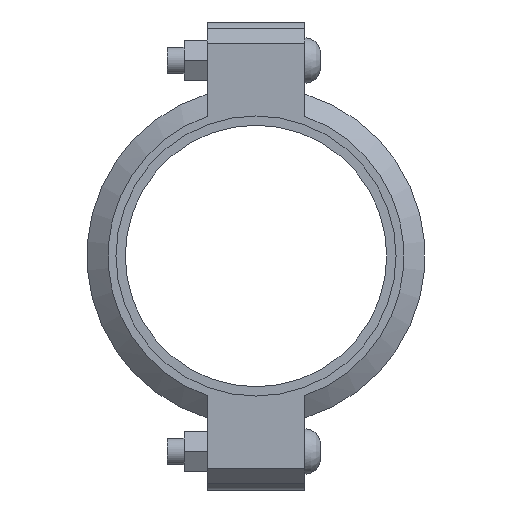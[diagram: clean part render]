
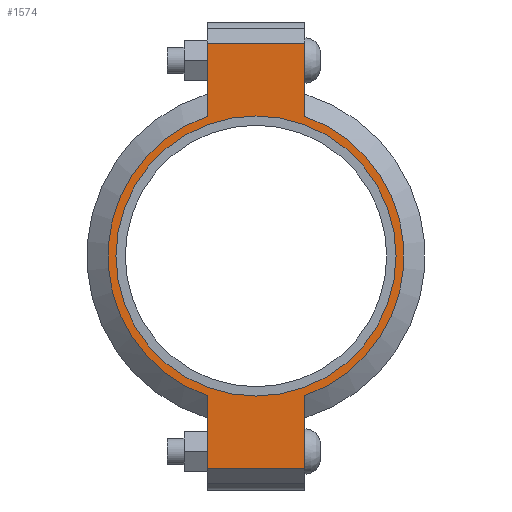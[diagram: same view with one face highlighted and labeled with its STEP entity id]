
A CAD part, left-side view. The second image highlights one B-rep face of the part: STEP entity #1574.
In plain terms, the highlighted planar face has unit normal (-1, 0, 0) as drawn and (0, 0, 1) by its records, which use the part's own axes.
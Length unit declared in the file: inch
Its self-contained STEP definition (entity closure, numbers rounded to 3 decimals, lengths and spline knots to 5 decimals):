
#198=LINE('',#2756,#291);
#206=LINE('',#2792,#299);
#213=LINE('',#2813,#306);
#222=LINE('',#2845,#315);
#223=LINE('',#2849,#316);
#224=LINE('',#2851,#317);
#291=VECTOR('',#2244,0.3937);
#299=VECTOR('',#2260,0.3937);
#306=VECTOR('',#2279,0.3937);
#315=VECTOR('',#2304,0.3937);
#316=VECTOR('',#2309,0.3937);
#317=VECTOR('',#2310,0.3937);
#373=FACE_BOUND('',#551,.T.);
#445=FACE_OUTER_BOUND('',#550,.T.);
#550=EDGE_LOOP('',(#1315,#1316,#1317,#1318,#1319,#1320,#1321,#1322));
#551=EDGE_LOOP('',(#1323));
#623=CIRCLE('',#1802,3.3125);
#649=CIRCLE('',#1861,3.5);
#650=CIRCLE('',#1862,3.5);
#715=VERTEX_POINT('',#2572);
#758=VERTEX_POINT('',#2753);
#759=VERTEX_POINT('',#2755);
#770=VERTEX_POINT('',#2787);
#771=VERTEX_POINT('',#2791);
#778=VERTEX_POINT('',#2810);
#779=VERTEX_POINT('',#2812);
#789=VERTEX_POINT('',#2848);
#790=VERTEX_POINT('',#2850);
#871=EDGE_CURVE('',#715,#715,#623,.T.);
#932=EDGE_CURVE('',#759,#758,#198,.T.);
#946=EDGE_CURVE('',#771,#770,#206,.T.);
#956=EDGE_CURVE('',#779,#778,#213,.T.);
#971=EDGE_CURVE('',#771,#758,#222,.T.);
#972=EDGE_CURVE('',#770,#779,#649,.T.);
#973=EDGE_CURVE('',#789,#778,#223,.T.);
#974=EDGE_CURVE('',#789,#790,#224,.T.);
#975=EDGE_CURVE('',#790,#759,#650,.T.);
#1315=ORIENTED_EDGE('',*,*,#971,.F.);
#1316=ORIENTED_EDGE('',*,*,#946,.T.);
#1317=ORIENTED_EDGE('',*,*,#972,.T.);
#1318=ORIENTED_EDGE('',*,*,#956,.T.);
#1319=ORIENTED_EDGE('',*,*,#973,.F.);
#1320=ORIENTED_EDGE('',*,*,#974,.T.);
#1321=ORIENTED_EDGE('',*,*,#975,.T.);
#1322=ORIENTED_EDGE('',*,*,#932,.T.);
#1323=ORIENTED_EDGE('',*,*,#871,.T.);
#1416=PLANE('',#1860);
#1574=ADVANCED_FACE('',(#445,#373),#1416,.T.);
#1802=AXIS2_PLACEMENT_3D('',#2574,#2120,#2121);
#1860=AXIS2_PLACEMENT_3D('',#2846,#2305,#2306);
#1861=AXIS2_PLACEMENT_3D('',#2847,#2307,#2308);
#1862=AXIS2_PLACEMENT_3D('',#2852,#2311,#2312);
#2120=DIRECTION('center_axis',(0.,0.,-1.));
#2121=DIRECTION('ref_axis',(1.,0.,0.));
#2244=DIRECTION('',(1.,0.,0.));
#2260=DIRECTION('',(-1.,0.,0.));
#2279=DIRECTION('',(-1.,0.,0.));
#2304=DIRECTION('',(0.,-1.,0.));
#2305=DIRECTION('center_axis',(0.,0.,1.));
#2306=DIRECTION('ref_axis',(-1.,0.,0.));
#2307=DIRECTION('center_axis',(0.,0.,1.));
#2308=DIRECTION('ref_axis',(1.,0.,0.));
#2309=DIRECTION('',(0.,1.,0.));
#2310=DIRECTION('',(1.,0.,0.));
#2311=DIRECTION('center_axis',(0.,0.,1.));
#2312=DIRECTION('ref_axis',(1.,0.,0.));
#2572=CARTESIAN_POINT('',(-3.3125,0.,1.065));
#2574=CARTESIAN_POINT('Origin',(0.,0.,1.065));
#2753=CARTESIAN_POINT('',(5.035,-1.156,1.065));
#2755=CARTESIAN_POINT('',(3.30358,-1.156,1.065));
#2756=CARTESIAN_POINT('',(5.535,-1.156,1.065));
#2787=CARTESIAN_POINT('',(3.30358,1.156,1.065));
#2791=CARTESIAN_POINT('',(5.035,1.156,1.065));
#2792=CARTESIAN_POINT('',(-5.535,1.156,1.065));
#2810=CARTESIAN_POINT('',(-5.035,1.156,1.065));
#2812=CARTESIAN_POINT('',(-3.30358,1.156,1.065));
#2813=CARTESIAN_POINT('',(-5.535,1.156,1.065));
#2845=CARTESIAN_POINT('',(5.035,-0.578,1.065));
#2846=CARTESIAN_POINT('Origin',(0.,0.,
1.065));
#2847=CARTESIAN_POINT('Origin',(0.,0.,1.065));
#2848=CARTESIAN_POINT('',(-5.035,-1.156,1.065));
#2849=CARTESIAN_POINT('',(-5.035,0.578,1.065));
#2850=CARTESIAN_POINT('',(-3.30358,-1.156,1.065));
#2851=CARTESIAN_POINT('',(5.535,-1.156,1.065));
#2852=CARTESIAN_POINT('Origin',(0.,0.,1.065));
